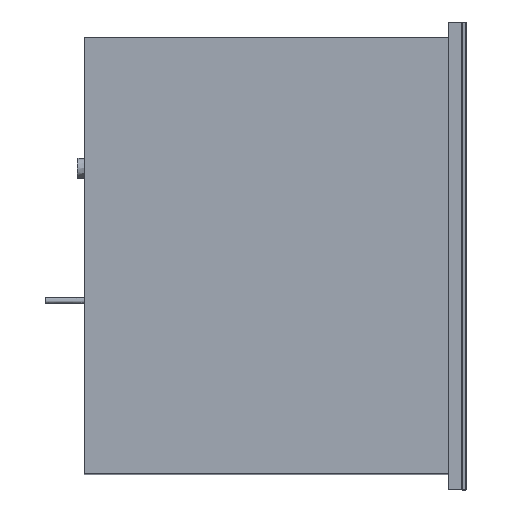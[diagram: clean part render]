
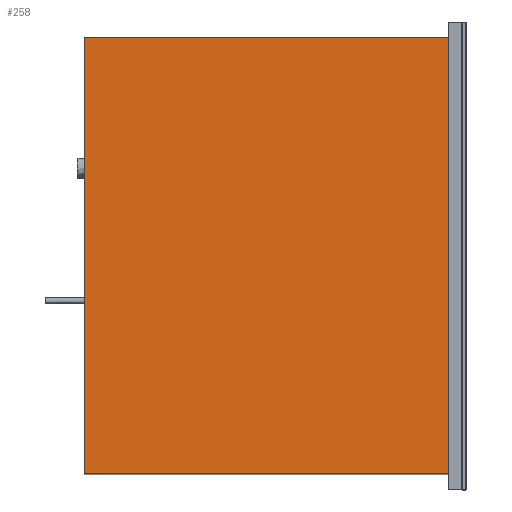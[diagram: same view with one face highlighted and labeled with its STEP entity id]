
A CAD part, top view. The second image highlights one B-rep face of the part: STEP entity #258.
In plain terms, the highlighted free-form (B-spline) face has degree [1, 1] with [2, 2] control points.
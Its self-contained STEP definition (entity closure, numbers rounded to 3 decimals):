
#258=ADVANCED_FACE('',(#382),#1529,.T.);
#382=FACE_OUTER_BOUND('',#507,.T.);
#507=EDGE_LOOP('',(#869,#870,#871,#872));
#869=ORIENTED_EDGE('',*,*,#1215,.F.);
#870=ORIENTED_EDGE('',*,*,#1207,.T.);
#871=ORIENTED_EDGE('',*,*,#1217,.T.);
#872=ORIENTED_EDGE('',*,*,#1218,.F.);
#1207=EDGE_CURVE('',#1399,#1401,#1713,.T.);
#1215=EDGE_CURVE('',#1399,#1408,#1721,.T.);
#1217=EDGE_CURVE('',#1401,#1409,#1723,.T.);
#1218=EDGE_CURVE('',#1408,#1409,#1724,.T.);
#1399=VERTEX_POINT('',#6101);
#1401=VERTEX_POINT('',#6103);
#1408=VERTEX_POINT('',#6110);
#1409=VERTEX_POINT('',#6111);
#1529=B_SPLINE_SURFACE_WITH_KNOTS('',1,1,((#6068,#6069),(#6070,#6071)),.UNSPECIFIED.,
.F.,.F.,.F.,(2,2),(2,2),(0.,1.),(0.,1.),.UNSPECIFIED.);
#1713=B_SPLINE_CURVE_WITH_KNOTS('',1,(#5962,#5963),.UNSPECIFIED.,.F.,.F.,
(2,2),(0.,1.),.UNSPECIFIED.);
#1721=B_SPLINE_CURVE_WITH_KNOTS('',1,(#5994,#5995),.UNSPECIFIED.,.F.,.F.,
(2,2),(0.,1.),.UNSPECIFIED.);
#1723=B_SPLINE_CURVE_WITH_KNOTS('',1,(#5998,#5999),.UNSPECIFIED.,.F.,.F.,
(2,2),(0.,1.),.UNSPECIFIED.);
#1724=B_SPLINE_CURVE_WITH_KNOTS('',1,(#6000,#6001),.UNSPECIFIED.,.F.,.F.,
(2,2),(0.,1.),.UNSPECIFIED.);
#5962=CARTESIAN_POINT('',(0.,-280.981,443.));
#5963=CARTESIAN_POINT('',(0.,274.787,443.));
#5994=CARTESIAN_POINT('',(0.,-280.981,443.));
#5995=CARTESIAN_POINT('',(-463.885,-280.981,443.));
#5998=CARTESIAN_POINT('',(0.,274.787,443.));
#5999=CARTESIAN_POINT('',(-463.885,274.787,443.));
#6000=CARTESIAN_POINT('',(-463.885,-280.981,443.));
#6001=CARTESIAN_POINT('',(-463.885,274.787,443.));
#6068=CARTESIAN_POINT('',(0.,-280.981,443.));
#6069=CARTESIAN_POINT('',(-463.885,-280.981,443.));
#6070=CARTESIAN_POINT('',(0.,274.787,443.));
#6071=CARTESIAN_POINT('',(-463.885,274.787,443.));
#6101=CARTESIAN_POINT('',(0.,-280.981,443.));
#6103=CARTESIAN_POINT('',(0.,274.787,443.));
#6110=CARTESIAN_POINT('',(-463.885,-280.981,443.));
#6111=CARTESIAN_POINT('',(-463.885,274.787,443.));
